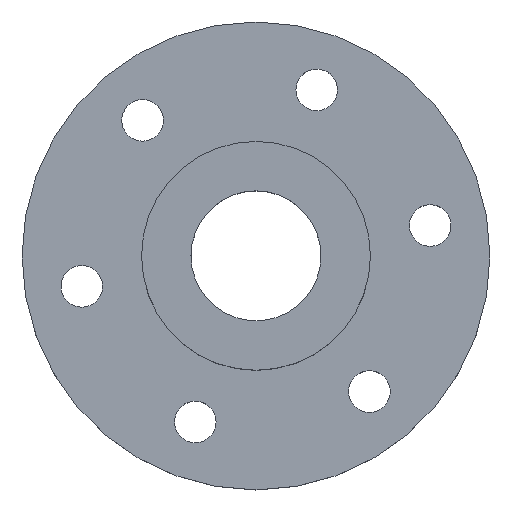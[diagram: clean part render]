
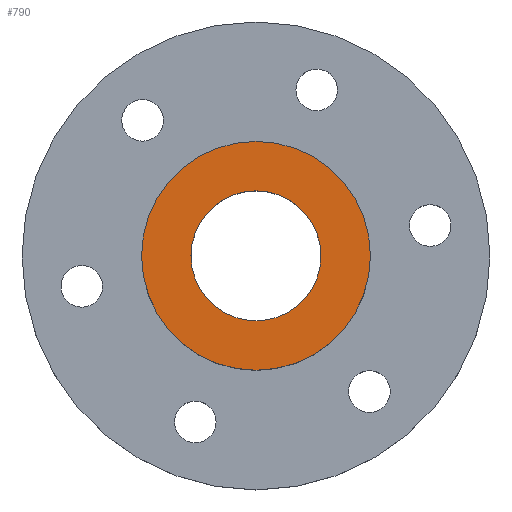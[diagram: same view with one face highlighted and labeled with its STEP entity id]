
A CAD part, top view. The second image highlights one B-rep face of the part: STEP entity #790.
In plain terms, the highlighted planar face has unit normal (0, 0, 1).
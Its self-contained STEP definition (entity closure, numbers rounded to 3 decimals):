
#148 = CYLINDRICAL_SURFACE('',#149,12.499);
#149 = AXIS2_PLACEMENT_3D('',#150,#151,#152);
#150 = CARTESIAN_POINT('',(0.794,-0.025,-0.05));
#151 = DIRECTION('',(-0.,-0.,-1.));
#152 = DIRECTION('',(1.,0.,0.));
#468 = VERTEX_POINT('',#469);
#469 = CARTESIAN_POINT('',(13.293,-0.025,25.));
#490 = EDGE_CURVE('',#468,#468,#491,.T.);
#491 = SURFACE_CURVE('',#492,(#497,#504),.PCURVE_S1.);
#492 = CIRCLE('',#493,12.499);
#493 = AXIS2_PLACEMENT_3D('',#494,#495,#496);
#494 = CARTESIAN_POINT('',(0.794,-0.025,25.));
#495 = DIRECTION('',(0.,0.,-1.));
#496 = DIRECTION('',(1.,0.,0.));
#497 = PCURVE('',#148,#498);
#498 = DEFINITIONAL_REPRESENTATION('',(#499),#503);
#499 = LINE('',#500,#501);
#500 = CARTESIAN_POINT('',(-6.283,-25.05));
#501 = VECTOR('',#502,1.);
#502 = DIRECTION('',(1.,-0.));
#503 = ( GEOMETRIC_REPRESENTATION_CONTEXT(2) 
PARAMETRIC_REPRESENTATION_CONTEXT() REPRESENTATION_CONTEXT('2D SPACE',''
  ) );
#504 = PCURVE('',#505,#510);
#505 = PLANE('',#506);
#506 = AXIS2_PLACEMENT_3D('',#507,#508,#509);
#507 = CARTESIAN_POINT('',(0.797,-0.026,25.));
#508 = DIRECTION('',(0.,0.,1.));
#509 = DIRECTION('',(1.,0.,-0.));
#510 = DEFINITIONAL_REPRESENTATION('',(#511),#519);
#511 = ( BOUNDED_CURVE() B_SPLINE_CURVE(2,(#512,#513,#514,#515,#516,#517
,#518),.UNSPECIFIED.,.T.,.F.) B_SPLINE_CURVE_WITH_KNOTS((1,2,2,2,2,1),(
    -2.094,0.,2.094,4.189,6.283,
8.378),.UNSPECIFIED.) CURVE() GEOMETRIC_REPRESENTATION_ITEM() 
RATIONAL_B_SPLINE_CURVE((1.,0.5,1.,0.5,1.,0.5,1.)) REPRESENTATION_ITEM(
  '') );
#512 = CARTESIAN_POINT('',(12.496,0.001));
#513 = CARTESIAN_POINT('',(12.496,-21.648));
#514 = CARTESIAN_POINT('',(-6.253,-10.823));
#515 = CARTESIAN_POINT('',(-25.001,0.001));
#516 = CARTESIAN_POINT('',(-6.253,10.825));
#517 = CARTESIAN_POINT('',(12.496,21.65));
#518 = CARTESIAN_POINT('',(12.496,0.001));
#519 = ( GEOMETRIC_REPRESENTATION_CONTEXT(2) 
PARAMETRIC_REPRESENTATION_CONTEXT() REPRESENTATION_CONTEXT('2D SPACE',''
  ) );
#767 = CYLINDRICAL_SURFACE('',#768,22.008);
#768 = AXIS2_PLACEMENT_3D('',#769,#770,#771);
#769 = CARTESIAN_POINT('',(0.797,-0.026,10.));
#770 = DIRECTION('',(0.,0.,1.));
#771 = DIRECTION('',(1.,0.,-0.));
#790 = ADVANCED_FACE('',(#791,#817),#505,.T.);
#791 = FACE_BOUND('',#792,.T.);
#792 = EDGE_LOOP('',(#793));
#793 = ORIENTED_EDGE('',*,*,#794,.T.);
#794 = EDGE_CURVE('',#795,#795,#797,.T.);
#795 = VERTEX_POINT('',#796);
#796 = CARTESIAN_POINT('',(22.805,-0.026,25.));
#797 = SURFACE_CURVE('',#798,(#803,#810),.PCURVE_S1.);
#798 = CIRCLE('',#799,22.008);
#799 = AXIS2_PLACEMENT_3D('',#800,#801,#802);
#800 = CARTESIAN_POINT('',(0.797,-0.026,25.));
#801 = DIRECTION('',(0.,0.,1.));
#802 = DIRECTION('',(1.,0.,-0.));
#803 = PCURVE('',#505,#804);
#804 = DEFINITIONAL_REPRESENTATION('',(#805),#809);
#805 = CIRCLE('',#806,22.008);
#806 = AXIS2_PLACEMENT_2D('',#807,#808);
#807 = CARTESIAN_POINT('',(0.,0.));
#808 = DIRECTION('',(1.,0.));
#809 = ( GEOMETRIC_REPRESENTATION_CONTEXT(2) 
PARAMETRIC_REPRESENTATION_CONTEXT() REPRESENTATION_CONTEXT('2D SPACE',''
  ) );
#810 = PCURVE('',#767,#811);
#811 = DEFINITIONAL_REPRESENTATION('',(#812),#816);
#812 = LINE('',#813,#814);
#813 = CARTESIAN_POINT('',(0.,15.));
#814 = VECTOR('',#815,1.);
#815 = DIRECTION('',(1.,0.));
#816 = ( GEOMETRIC_REPRESENTATION_CONTEXT(2) 
PARAMETRIC_REPRESENTATION_CONTEXT() REPRESENTATION_CONTEXT('2D SPACE',''
  ) );
#817 = FACE_BOUND('',#818,.T.);
#818 = EDGE_LOOP('',(#819));
#819 = ORIENTED_EDGE('',*,*,#490,.T.);
